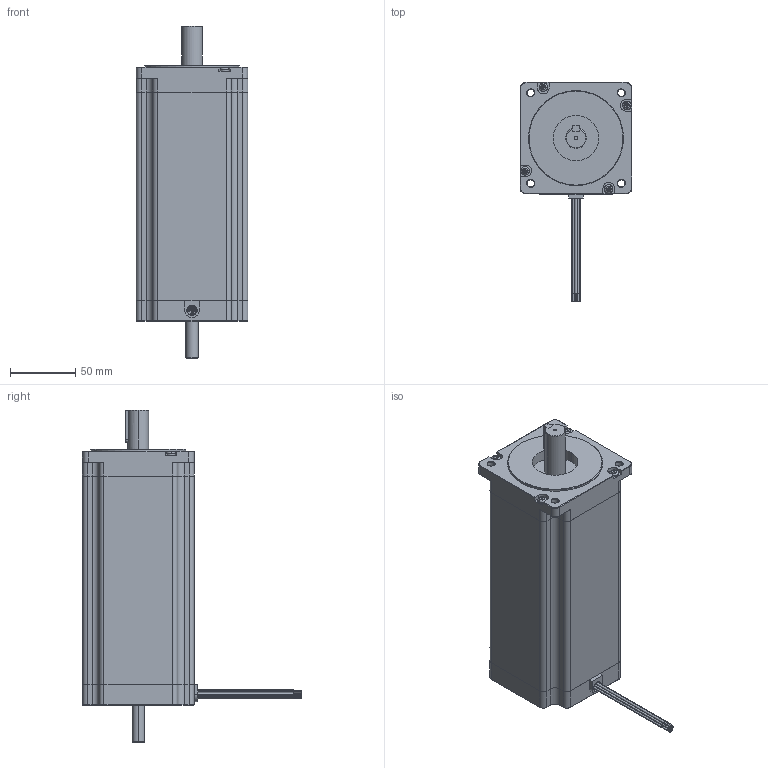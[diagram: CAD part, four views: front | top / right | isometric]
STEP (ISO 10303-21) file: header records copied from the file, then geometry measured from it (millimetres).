
FILE_DESCRIPTION (( 'STEP AP214' ), '1' );
FILE_NAME ('34Y408D-LW8.STEP', '2017-12-04T17:21:22', ( '' ), ( '' ), 'SwSTEP 2.0', 'SolidWorks 2017', '' );
FILE_SCHEMA (( 'AUTOMOTIVE_DESIGN' ));
Length unit declared in the file: inch
Products named in the file (1): 34Y408D-LW8
Bounding box: 85.85 x 168.4 x 255.27 mm (x, y, z)
Volume: 1319689.4 mm3; surface area: 87102.7 mm2
Topology: 1 solids, 1 shells, 375 faces, 943 edges, 594 vertices
Faces by surface type: plane 176, cylinder 128, cone 63, torus 8
Entity records: 16207 total; most frequent: CARTESIAN_POINT 2205, DIRECTION 1947, ORIENTED_EDGE 1862, EDGE_CURVE 931, AXIS2_PLACEMENT_3D 704, VERTEX_POINT 594, VECTOR 539, LINE 539
